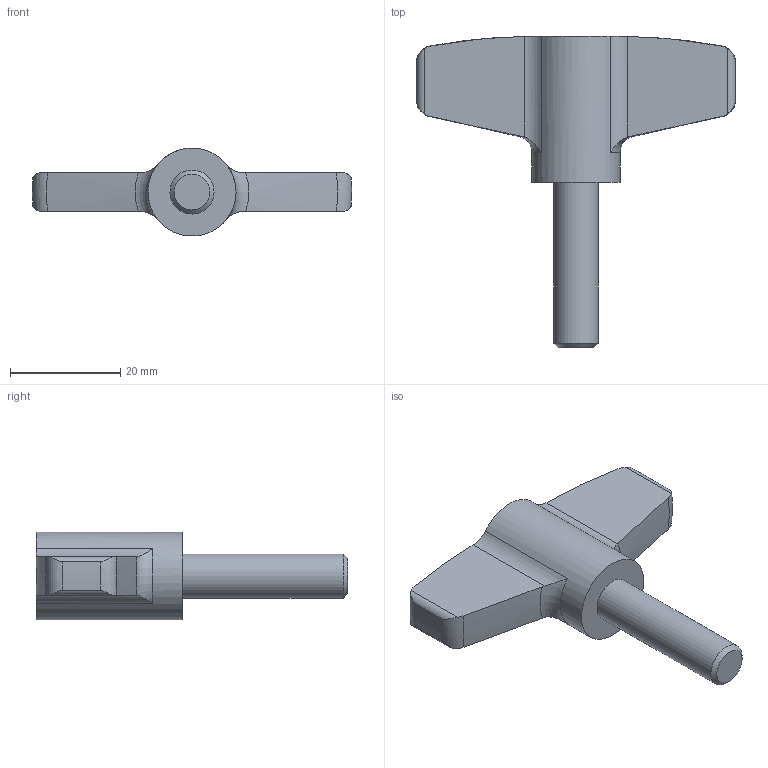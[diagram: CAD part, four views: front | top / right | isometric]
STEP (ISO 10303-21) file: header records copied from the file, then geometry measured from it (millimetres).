
FILE_DESCRIPTION( ( 'STEP AP203' ), '1' );
FILE_NAME( 'C:/Temp/Ganter_Step_05_03_2020/data/2_2/gn_835/Stainless Steel-Wing screw GN 835-58-M8-30-MT.stp', '2020-03-05T12:19:32', ( 'License CC BY-ND 4.0' ), ( 'CADENAS' ), ' ', 'PARTsolutions', ' ' );
FILE_SCHEMA( ( 'CONFIG_CONTROL_DESIGN' ) );
Length unit declared in the file: millimetre
Products named in the file (1): _Stainless Steel-Wing screw GN 835-58-M8-30-MT
Bounding box: 57.97 x 56.5 x 15.98 mm (x, y, z)
Volume: 11487.8 mm3; surface area: 4244.4 mm2
Topology: 1 solids, 1 shells, 30 faces, 76 edges, 49 vertices
Faces by surface type: cylinder 12, plane 7, torus 6, cone 3, bspline 2
Full cylindrical faces by diameter (mm): 8 x1, 16 x1
Entity records: 1166 total; most frequent: CARTESIAN_POINT 477, ORIENTED_EDGE 144, DIRECTION 114, EDGE_CURVE 72, AXIS2_PLACEMENT_3D 49, VERTEX_POINT 48, B_SPLINE_CURVE_WITH_KNOTS 36, EDGE_LOOP 34
